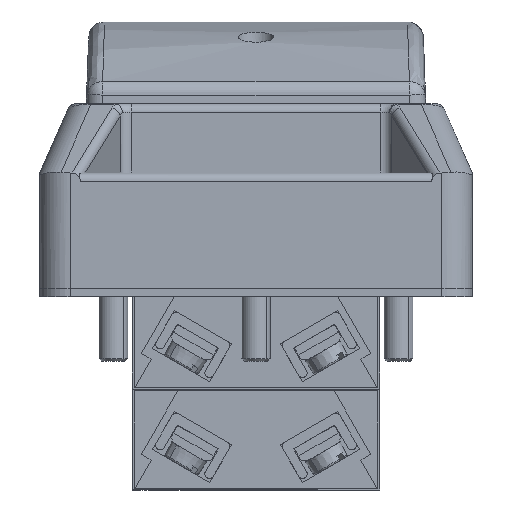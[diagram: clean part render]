
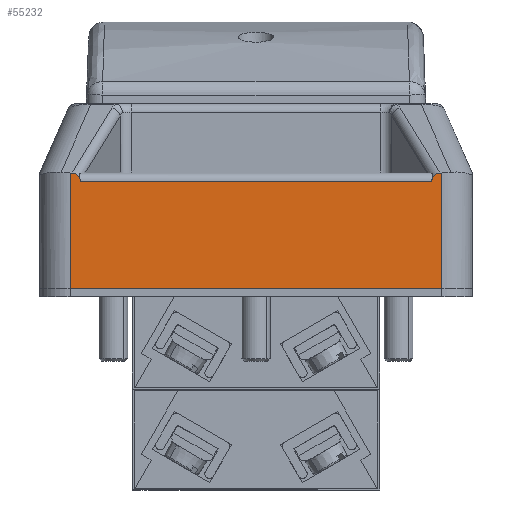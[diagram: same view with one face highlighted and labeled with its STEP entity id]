
A CAD part, front view. The second image highlights one B-rep face of the part: STEP entity #55232.
In plain terms, the highlighted planar face has unit normal (0, -1, 0).
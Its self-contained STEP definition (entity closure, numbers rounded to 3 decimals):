
#1151 = ORIENTED_EDGE ( 'NONE', *, *, #48334, .T. ) ;
#2497 = CARTESIAN_POINT ( 'NONE',  ( -30.5, -69.25, 20. ) ) ;
#4027 = LINE ( 'NONE', #86353, #83156 ) ;
#4908 = EDGE_CURVE ( 'NONE', #54257, #77267, #4027, .T. ) ;
#7869 = CARTESIAN_POINT ( 'NONE',  ( -37.5, -69.25, 21.5 ) ) ;
#8671 = LINE ( 'NONE', #76097, #26681 ) ;
#9022 = ORIENTED_EDGE ( 'NONE', *, *, #71811, .F. ) ;
#9117 = CARTESIAN_POINT ( 'NONE',  ( 32.25, -69.25, 1.5 ) ) ;
#9961 = DIRECTION ( 'NONE',  ( -1., 0., 0. ) ) ;
#11387 = VECTOR ( 'NONE', #40448, 1000. ) ;
#13439 = ORIENTED_EDGE ( 'NONE', *, *, #52649, .T. ) ;
#13878 = VERTEX_POINT ( 'NONE', #25294 ) ;
#15495 = DIRECTION ( 'NONE',  ( 1., 0., 0. ) ) ;
#16626 = EDGE_CURVE ( 'NONE', #25645, #64459, #94508, .T. ) ;
#19935 = CARTESIAN_POINT ( 'NONE',  ( -31.046, -69.25, 21.5 ) ) ;
#20040 = VECTOR ( 'NONE', #99313, 1000. ) ;
#20267 = VECTOR ( 'NONE', #91180, 1000. ) ;
#20446 = CARTESIAN_POINT ( 'NONE',  ( 31.891, -69.25, 21.5 ) ) ;
#20886 = VERTEX_POINT ( 'NONE', #43748 ) ;
#21817 = ORIENTED_EDGE ( 'NONE', *, *, #84653, .T. ) ;
#21862 = DIRECTION ( 'NONE',  ( 0., 1., 0. ) ) ;
#25294 = CARTESIAN_POINT ( 'NONE',  ( -32.25, -69.25, 1.5 ) ) ;
#25549 = AXIS2_PLACEMENT_3D ( 'NONE', #67705, #21862, #75348 ) ;
#25645 = VERTEX_POINT ( 'NONE', #20446 ) ;
#26681 = VECTOR ( 'NONE', #15495, 1000. ) ;
#27984 = CARTESIAN_POINT ( 'NONE',  ( 30.483, -69.25, 20.893 ) ) ;
#35376 = CARTESIAN_POINT ( 'NONE',  ( 30.5, -69.25, 20. ) ) ;
#36087 = CARTESIAN_POINT ( 'NONE',  ( -32.25, -69.25, 21.5 ) ) ;
#40113 = CARTESIAN_POINT ( 'NONE',  ( -32.25, -69.25, 21.5 ) ) ;
#40448 = DIRECTION ( 'NONE',  ( 0., 0., -1. ) ) ;
#43748 = CARTESIAN_POINT ( 'NONE',  ( -31.891, -69.25, 21.5 ) ) ;
#43788 =( BOUNDED_CURVE ( )  B_SPLINE_CURVE ( 3, ( #58007, #50068, #27984, #81555 ),
 .UNSPECIFIED., .F., .F. ) 
 B_SPLINE_CURVE_WITH_KNOTS ( ( 4, 4 ),
 ( 2.646, 4.132 ),
 .UNSPECIFIED. ) 
 CURVE ( )  GEOMETRIC_REPRESENTATION_ITEM ( )  RATIONAL_B_SPLINE_CURVE ( ( 1., 0.824, 0.824, 1. ) ) 
 REPRESENTATION_ITEM ( '' )  );
#45802 = VERTEX_POINT ( 'NONE', #36087 ) ;
#48011 = FACE_OUTER_BOUND ( 'NONE', #66160, .T. ) ;
#48334 = EDGE_CURVE ( 'NONE', #45802, #13878, #90557, .T. ) ;
#50068 = CARTESIAN_POINT ( 'NONE',  ( 31.046, -69.25, 21.5 ) ) ;
#50374 = CARTESIAN_POINT ( 'NONE',  ( -30.483, -69.25, 20.893 ) ) ;
#50587 = ORIENTED_EDGE ( 'NONE', *, *, #4908, .T. ) ;
#52274 = VERTEX_POINT ( 'NONE', #9117 ) ;
#52649 = EDGE_CURVE ( 'NONE', #13878, #52274, #60926, .T. ) ;
#54257 = VERTEX_POINT ( 'NONE', #35376 ) ;
#55232 = ADVANCED_FACE ( 'NONE', ( #48011 ), #82816, .F. ) ;
#58007 = CARTESIAN_POINT ( 'NONE',  ( 31.891, -69.25, 21.5 ) ) ;
#60705 = LINE ( 'NONE', #91602, #20040 ) ;
#60926 = LINE ( 'NONE', #83428, #20267 ) ;
#64459 = VERTEX_POINT ( 'NONE', #95272 ) ;
#66160 = EDGE_LOOP ( 'NONE', ( #87744, #21817, #50587, #68745, #9022, #1151, #13439, #90048 ) ) ;
#67705 = CARTESIAN_POINT ( 'NONE',  ( -37.5, -69.25, 21.5 ) ) ;
#68745 = ORIENTED_EDGE ( 'NONE', *, *, #75700, .T. ) ;
#71811 = EDGE_CURVE ( 'NONE', #45802, #20886, #8671, .T. ) ;
#73451 = CARTESIAN_POINT ( 'NONE',  ( -31.891, -69.25, 21.5 ) ) ;
#74044 = VECTOR ( 'NONE', #76787, 1000. ) ;
#75348 = DIRECTION ( 'NONE',  ( -1., 0., 0. ) ) ;
#75700 = EDGE_CURVE ( 'NONE', #77267, #20886, #82642, .T. ) ;
#76097 = CARTESIAN_POINT ( 'NONE',  ( -37.5, -69.25, 21.5 ) ) ;
#76787 = DIRECTION ( 'NONE',  ( 1., 0., 0. ) ) ;
#77267 = VERTEX_POINT ( 'NONE', #2497 ) ;
#77610 = EDGE_CURVE ( 'NONE', #52274, #64459, #60705, .T. ) ;
#81555 = CARTESIAN_POINT ( 'NONE',  ( 30.5, -69.25, 20. ) ) ;
#82642 =( BOUNDED_CURVE ( )  B_SPLINE_CURVE ( 3, ( #88659, #50374, #19935, #73451 ),
 .UNSPECIFIED., .F., .F. ) 
 B_SPLINE_CURVE_WITH_KNOTS ( ( 4, 4 ),
 ( 5.293, 6.779 ),
 .UNSPECIFIED. ) 
 CURVE ( )  GEOMETRIC_REPRESENTATION_ITEM ( )  RATIONAL_B_SPLINE_CURVE ( ( 1., 0.824, 0.824, 1. ) ) 
 REPRESENTATION_ITEM ( '' )  );
#82816 = PLANE ( 'NONE',  #25549 ) ;
#83156 = VECTOR ( 'NONE', #9961, 1000. ) ;
#83428 = CARTESIAN_POINT ( 'NONE',  ( -37.5, -69.25, 1.5 ) ) ;
#84653 = EDGE_CURVE ( 'NONE', #25645, #54257, #43788, .T. ) ;
#86353 = CARTESIAN_POINT ( 'NONE',  ( -31.891, -69.25, 20. ) ) ;
#87744 = ORIENTED_EDGE ( 'NONE', *, *, #16626, .F. ) ;
#88659 = CARTESIAN_POINT ( 'NONE',  ( -30.5, -69.25, 20. ) ) ;
#90048 = ORIENTED_EDGE ( 'NONE', *, *, #77610, .T. ) ;
#90557 = LINE ( 'NONE', #40113, #11387 ) ;
#91180 = DIRECTION ( 'NONE',  ( 1., 0., 0. ) ) ;
#91602 = CARTESIAN_POINT ( 'NONE',  ( 32.25, -69.25, 21.5 ) ) ;
#94508 = LINE ( 'NONE', #7869, #74044 ) ;
#95272 = CARTESIAN_POINT ( 'NONE',  ( 32.25, -69.25, 21.5 ) ) ;
#99313 = DIRECTION ( 'NONE',  ( 0., 0., 1. ) ) ;
